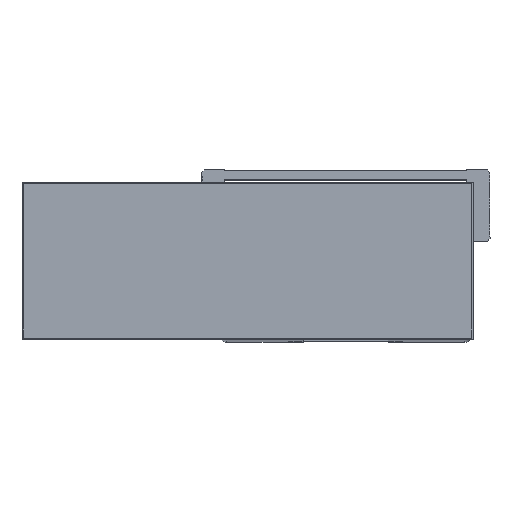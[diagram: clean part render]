
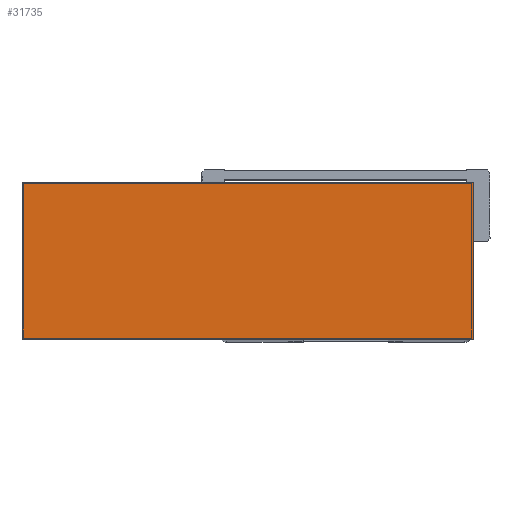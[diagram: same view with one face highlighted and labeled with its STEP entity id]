
A CAD part, top view. The second image highlights one B-rep face of the part: STEP entity #31735.
In plain terms, the highlighted planar face has unit normal (0, 0, 1).
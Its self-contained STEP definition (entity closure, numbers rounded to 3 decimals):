
#544 = EDGE_CURVE ( 'NONE', #32139, #38489, #13698, .T. ) ;
#656 = ORIENTED_EDGE ( 'NONE', *, *, #23908, .T. ) ;
#673 = FACE_OUTER_BOUND ( 'NONE', #40824, .T. ) ;
#4773 = ORIENTED_EDGE ( 'NONE', *, *, #544, .T. ) ;
#5102 = CARTESIAN_POINT ( 'NONE',  ( 0., 109., 70. ) ) ;
#5696 = DIRECTION ( 'NONE',  ( 0., 1., 0. ) ) ;
#7155 = DIRECTION ( 'NONE',  ( 0., -1., 0. ) ) ;
#9656 = AXIS2_PLACEMENT_3D ( 'NONE', #30365, #11043, #33584 ) ;
#9683 = VECTOR ( 'NONE', #23651, 1000. ) ;
#10924 = PLANE ( 'NONE',  #9656 ) ;
#11043 = DIRECTION ( 'NONE',  ( 0., 0., -1. ) ) ;
#13698 = LINE ( 'NONE', #18847, #22278 ) ;
#17135 = VECTOR ( 'NONE', #7155, 1000. ) ;
#17957 = DIRECTION ( 'NONE',  ( 1., 0., 0. ) ) ;
#18847 = CARTESIAN_POINT ( 'NONE',  ( 0., 0., 70. ) ) ;
#20406 = CARTESIAN_POINT ( 'NONE',  ( 0., 109., 70. ) ) ;
#21622 = CARTESIAN_POINT ( 'NONE',  ( 313., 0., 70. ) ) ;
#22278 = VECTOR ( 'NONE', #17957, 1000. ) ;
#23651 = DIRECTION ( 'NONE',  ( -1., 0., 0. ) ) ;
#23908 = EDGE_CURVE ( 'NONE', #28635, #34973, #26791, .T. ) ;
#25131 = ORIENTED_EDGE ( 'NONE', *, *, #27585, .T. ) ;
#26732 = LINE ( 'NONE', #29510, #17135 ) ;
#26791 = LINE ( 'NONE', #20406, #9683 ) ;
#27585 = EDGE_CURVE ( 'NONE', #38489, #28635, #40976, .T. ) ;
#28635 = VERTEX_POINT ( 'NONE', #40189 ) ;
#29076 = CARTESIAN_POINT ( 'NONE',  ( 0., 0., 70. ) ) ;
#29510 = CARTESIAN_POINT ( 'NONE',  ( 0., 0., 70. ) ) ;
#29958 = CARTESIAN_POINT ( 'NONE',  ( 313., 0., 70. ) ) ;
#30365 = CARTESIAN_POINT ( 'NONE',  ( 0., 0., 70. ) ) ;
#31735 = ADVANCED_FACE ( 'NONE', ( #673 ), #10924, .F. ) ;
#32139 = VERTEX_POINT ( 'NONE', #29076 ) ;
#32527 = VECTOR ( 'NONE', #5696, 1000. ) ;
#33584 = DIRECTION ( 'NONE',  ( -1., 0., 0. ) ) ;
#34746 = EDGE_CURVE ( 'NONE', #34973, #32139, #26732, .T. ) ;
#34973 = VERTEX_POINT ( 'NONE', #5102 ) ;
#38489 = VERTEX_POINT ( 'NONE', #29958 ) ;
#40189 = CARTESIAN_POINT ( 'NONE',  ( 313., 109., 70. ) ) ;
#40605 = ORIENTED_EDGE ( 'NONE', *, *, #34746, .T. ) ;
#40824 = EDGE_LOOP ( 'NONE', ( #40605, #4773, #25131, #656 ) ) ;
#40976 = LINE ( 'NONE', #21622, #32527 ) ;
